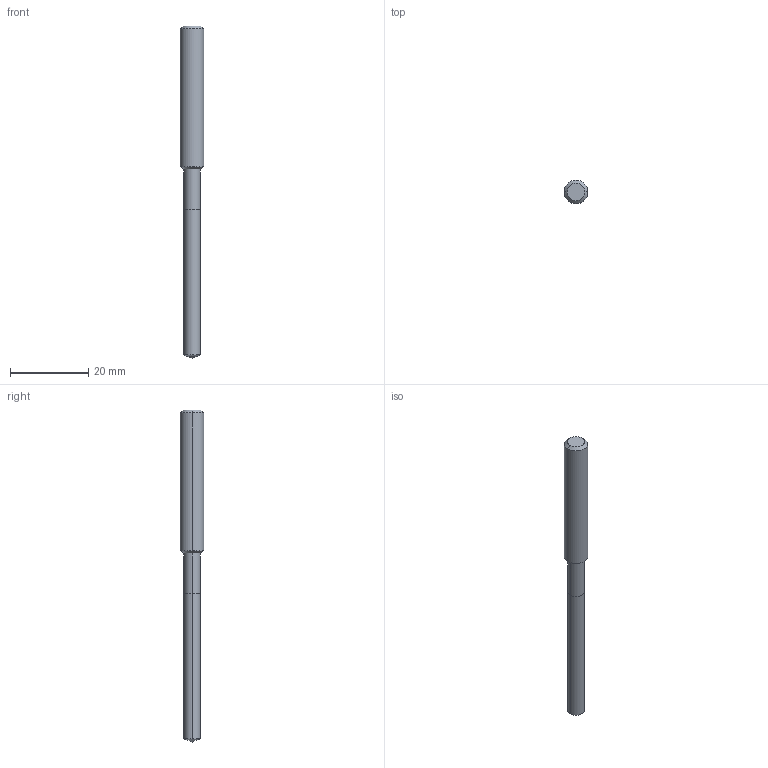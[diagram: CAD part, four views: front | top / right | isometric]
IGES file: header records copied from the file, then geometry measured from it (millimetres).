
Start section: 3D InterOp IGES (v. 2020 1.0.1), Spatial Corp. Copyright (c) 1999-2017.
Global section: file name: WZB12225_4.3.igs; native system: Spatial Corp.; preprocessor: 3D InterOp GENERIC/IGES 3.0; author: Noname; organization: Noname; date: 20201104.104646; units: metre
Bounding box: 6 x 6 x 85 mm (x, y, z)
Surface area: 1373 mm2 (no closed solid volume)
Topology: 0 solids, 0 shells, 14 faces, 54 edges, 52 vertices
Faces by surface type: revolution 12, extrusion 2
